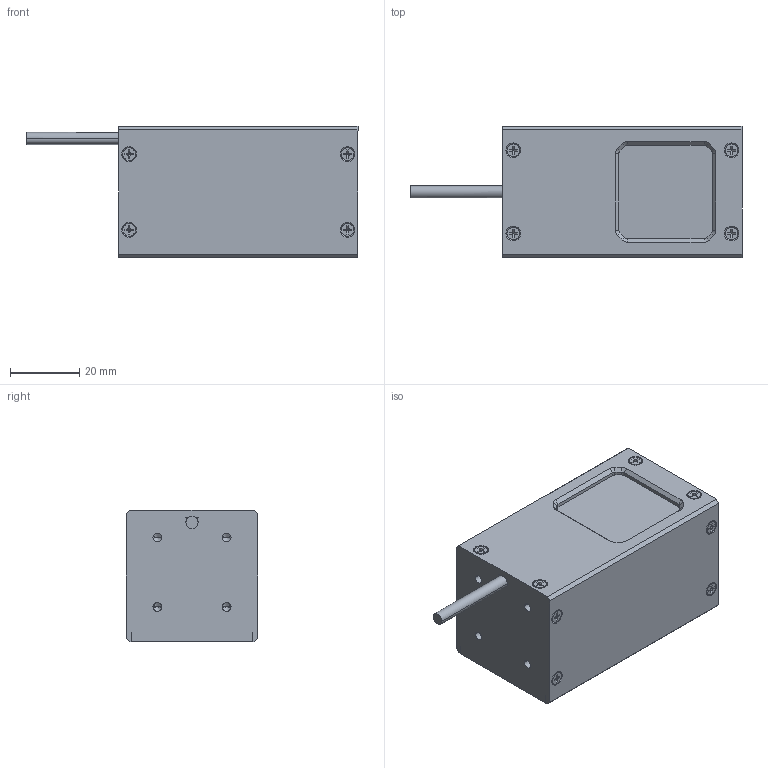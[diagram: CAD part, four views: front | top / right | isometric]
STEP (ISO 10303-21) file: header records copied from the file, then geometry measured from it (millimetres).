
FILE_DESCRIPTION((''),'2;1');
FILE_NAME('PRT0001','2022-10-19T01:13:39',('jiabaodong'),(''),'CREO PARAMETRIC BY PTC INC, 2020044','CREO PARAMETRIC BY PTC INC, 2020044','');
FILE_SCHEMA(('CONFIG_CONTROL_DESIGN'));
Length unit declared in the file: millimetre
Products named in the file (1): PRT0001
Bounding box: 95.74 x 38 x 37.85 mm (x, y, z)
Volume: 38494 mm3; surface area: 29955.3 mm2
Topology: 1 solids, 15 shells, 980 faces, 2336 edges, 1382 vertices
Faces by surface type: plane 566, cylinder 259, cone 115, torus 40
Entity records: 27793 total; most frequent: CARTESIAN_POINT 5219, DIRECTION 4760, ORIENTED_EDGE 4588, EDGE_CURVE 2294, AXIS2_PLACEMENT_3D 1610, VECTOR 1540, LINE 1540, VERTEX_POINT 1382
